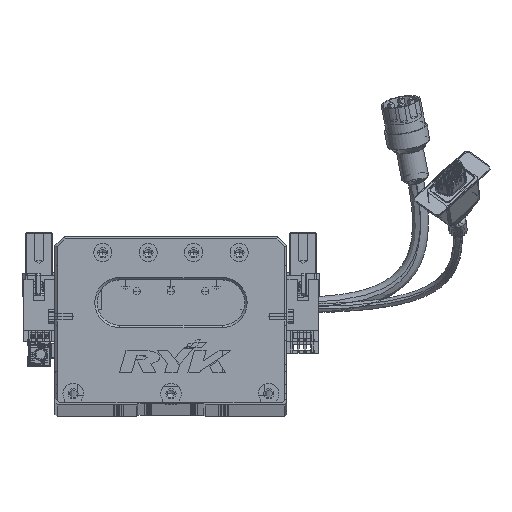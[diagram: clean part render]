
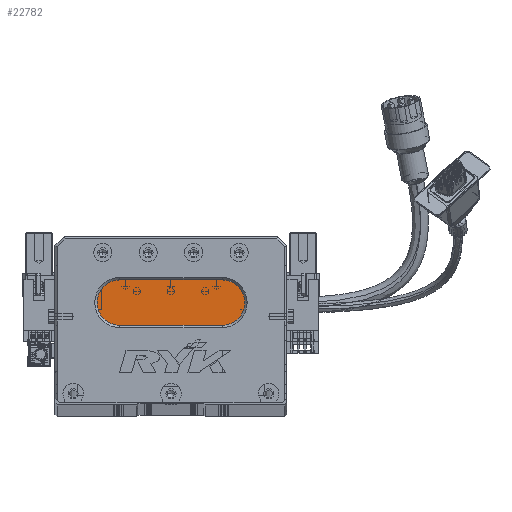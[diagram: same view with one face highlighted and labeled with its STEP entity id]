
A CAD part, top view. The second image highlights one B-rep face of the part: STEP entity #22782.
In plain terms, the highlighted planar face has unit normal (0, 0, 1) as drawn and (0, 0, -1) by its records, which use the part's own axes.
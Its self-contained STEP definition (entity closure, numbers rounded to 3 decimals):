
#392 = VERTEX_POINT ( 'NONE', #70093 ) ;
#3732 = VERTEX_POINT ( 'NONE', #46131 ) ;
#4323 = DIRECTION ( 'NONE',  ( -1., 0., 0. ) ) ;
#5202 = DIRECTION ( 'NONE',  ( 0., 0., -1. ) ) ;
#5501 = CARTESIAN_POINT ( 'NONE',  ( 28.5, 44., 13. ) ) ;
#10069 = EDGE_CURVE ( 'NONE', #74223, #3732, #55105, .T. ) ;
#13666 = CARTESIAN_POINT ( 'NONE',  ( 73.5, 54., 13. ) ) ;
#13782 = DIRECTION ( 'NONE',  ( -1., 0., 0. ) ) ;
#14038 = AXIS2_PLACEMENT_3D ( 'NONE', #44468, #85190, #30721 ) ;
#16994 = PLANE ( 'NONE',  #14038 ) ;
#20958 = DIRECTION ( 'NONE',  ( 1., 0., 0. ) ) ;
#21222 = ORIENTED_EDGE ( 'NONE', *, *, #51346, .T. ) ;
#22782 = ADVANCED_FACE ( 'NONE', ( #74076 ), #16994, .T. ) ;
#24685 = ORIENTED_EDGE ( 'NONE', *, *, #28989, .T. ) ;
#28104 = CARTESIAN_POINT ( 'NONE',  ( 28.5, 44., 13. ) ) ;
#28989 = EDGE_CURVE ( 'NONE', #36825, #83819, #34809, .T. ) ;
#29546 = EDGE_CURVE ( 'NONE', #392, #36825, #85828, .T. ) ;
#30721 = DIRECTION ( 'NONE',  ( -1., 0., 0. ) ) ;
#30725 = AXIS2_PLACEMENT_3D ( 'NONE', #5501, #5202, #61548 ) ;
#32013 = EDGE_CURVE ( 'NONE', #3732, #392, #85579, .T. ) ;
#33642 = CARTESIAN_POINT ( 'NONE',  ( 73.5, 34., 13. ) ) ;
#34809 = LINE ( 'NONE', #39807, #76134 ) ;
#36825 = VERTEX_POINT ( 'NONE', #33642 ) ;
#39807 = CARTESIAN_POINT ( 'NONE',  ( 73.5, 34., 13. ) ) ;
#43866 = ORIENTED_EDGE ( 'NONE', *, *, #32013, .T. ) ;
#44468 = CARTESIAN_POINT ( 'NONE',  ( 73.5, 44., 13. ) ) ;
#45810 = AXIS2_PLACEMENT_3D ( 'NONE', #52763, #88057, #4323 ) ;
#46131 = CARTESIAN_POINT ( 'NONE',  ( 28.5, 54., 13. ) ) ;
#46809 = DIRECTION ( 'NONE',  ( -1., 0., 0. ) ) ;
#49499 = ORIENTED_EDGE ( 'NONE', *, *, #29546, .T. ) ;
#51346 = EDGE_CURVE ( 'NONE', #83819, #74223, #59012, .T. ) ;
#52763 = CARTESIAN_POINT ( 'NONE',  ( 73.5, 44., 13. ) ) ;
#55105 = CIRCLE ( 'NONE', #30725, 10. ) ;
#55130 = EDGE_LOOP ( 'NONE', ( #49499, #24685, #21222, #55548, #43866 ) ) ;
#55548 = ORIENTED_EDGE ( 'NONE', *, *, #10069, .T. ) ;
#59012 = CIRCLE ( 'NONE', #78039, 10. ) ;
#61548 = DIRECTION ( 'NONE',  ( -1., 0., 0. ) ) ;
#62556 = CARTESIAN_POINT ( 'NONE',  ( 28.5, 34., 13. ) ) ;
#68231 = VECTOR ( 'NONE', #20958, 1000. ) ;
#70093 = CARTESIAN_POINT ( 'NONE',  ( 73.5, 54., 13. ) ) ;
#72760 = CARTESIAN_POINT ( 'NONE',  ( 18.5, 44., 13. ) ) ;
#74076 = FACE_OUTER_BOUND ( 'NONE', #55130, .T. ) ;
#74223 = VERTEX_POINT ( 'NONE', #72760 ) ;
#75881 = DIRECTION ( 'NONE',  ( 0., 0., -1. ) ) ;
#76134 = VECTOR ( 'NONE', #46809, 1000. ) ;
#78039 = AXIS2_PLACEMENT_3D ( 'NONE', #28104, #75881, #13782 ) ;
#83819 = VERTEX_POINT ( 'NONE', #62556 ) ;
#85190 = DIRECTION ( 'NONE',  ( 0., 0., -1. ) ) ;
#85579 = LINE ( 'NONE', #13666, #68231 ) ;
#85828 = CIRCLE ( 'NONE', #45810, 10. ) ;
#88057 = DIRECTION ( 'NONE',  ( 0., 0., -1. ) ) ;
